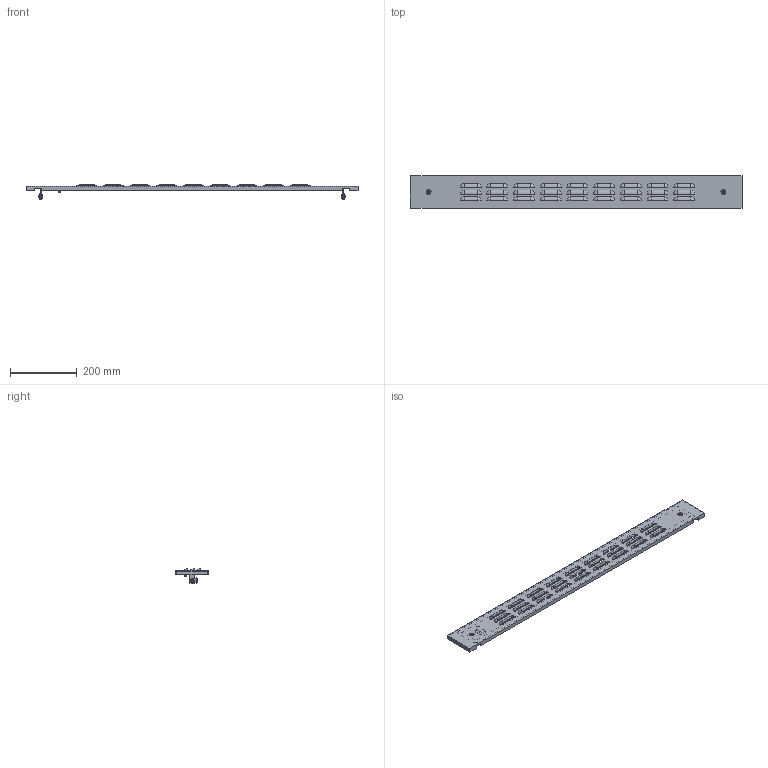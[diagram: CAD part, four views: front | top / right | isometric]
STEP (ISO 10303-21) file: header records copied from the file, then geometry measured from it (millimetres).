
FILE_DESCRIPTION (( 'STEP AP214' ), '1' );
FILE_NAME ('FO-00-PWSV-010-100 Ôàëüø-ïàíåëü âíåøíÿÿ âåíòèëèðóåìàÿ 100õ1000 ìì.STEP', '2025-08-25T06:42:45', ( '' ), ( '' ), 'SwSTEP 2.0', 'SolidWorks 2023', '' );
FILE_SCHEMA (( 'AUTOMOTIVE_DESIGN' ));
Length unit declared in the file: millimetre
Products named in the file (1): FO-00-PWSV-010-100 Фальш-панель внешняя вентилируемая 100х1000 мм
Bounding box: 995 x 96 x 43.5 mm (x, y, z)
Volume: 316745.6 mm3; surface area: 269674.7 mm2
Topology: 1 solids, 6 shells, 761 faces, 2030 edges, 1187 vertices
Faces by surface type: plane 353, cylinder 250, sphere 108, cone 34, torus 16
Entity records: 23177 total; most frequent: DIRECTION 4236, CARTESIAN_POINT 4155, ORIENTED_EDGE 3840, EDGE_CURVE 1920, AXIS2_PLACEMENT_3D 1570, VERTEX_POINT 1187, LINE 1096, VECTOR 1096
